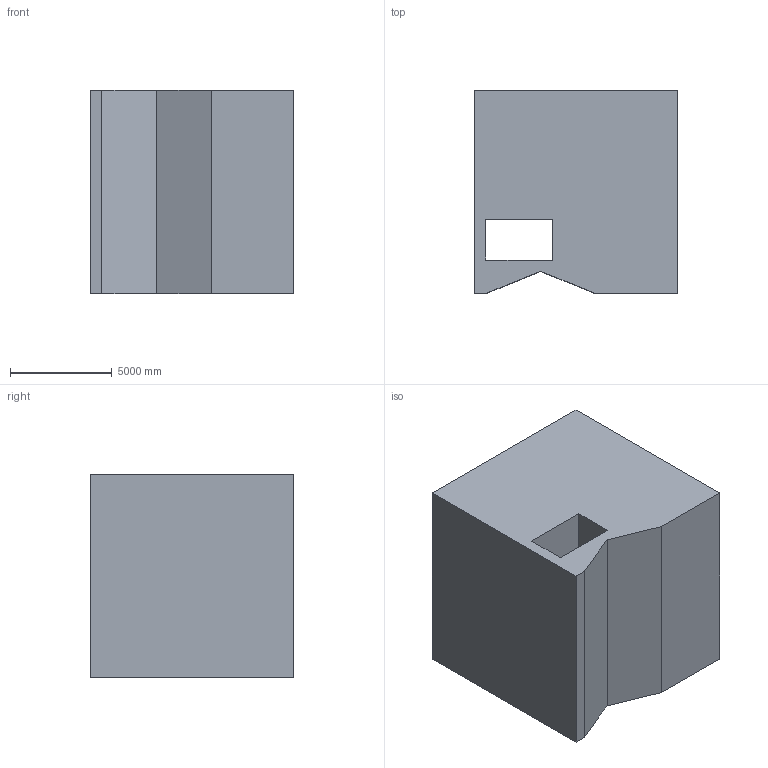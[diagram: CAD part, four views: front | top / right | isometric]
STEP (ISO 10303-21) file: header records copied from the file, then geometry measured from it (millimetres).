
FILE_DESCRIPTION (( 'STEP AP203' ), '1' );
FILE_NAME ('1277.STEP', '2022-08-18T13:31:33', ( 'user' ), ( '' ), 'SwSTEP 2.0', 'SolidWorks 2021', '' );
FILE_SCHEMA (( 'CONFIG_CONTROL_DESIGN' ));
Length unit declared in the file: centimetre
Products named in the file (1): 1277
Bounding box: 10000 x 10000 x 10000 mm (x, y, z)
Volume: 831410129871.9 mm3; surface area: 821086089.1 mm2
Topology: 1 solids, 1 shells, 19 faces, 51 edges, 34 vertices
Faces by surface type: plane 15, cylinder 4
Entity records: 680 total; most frequent: CARTESIAN_POINT 105, ORIENTED_EDGE 102, DIRECTION 101, EDGE_CURVE 51, VECTOR 41, LINE 41, VERTEX_POINT 34, AXIS2_PLACEMENT_3D 30
